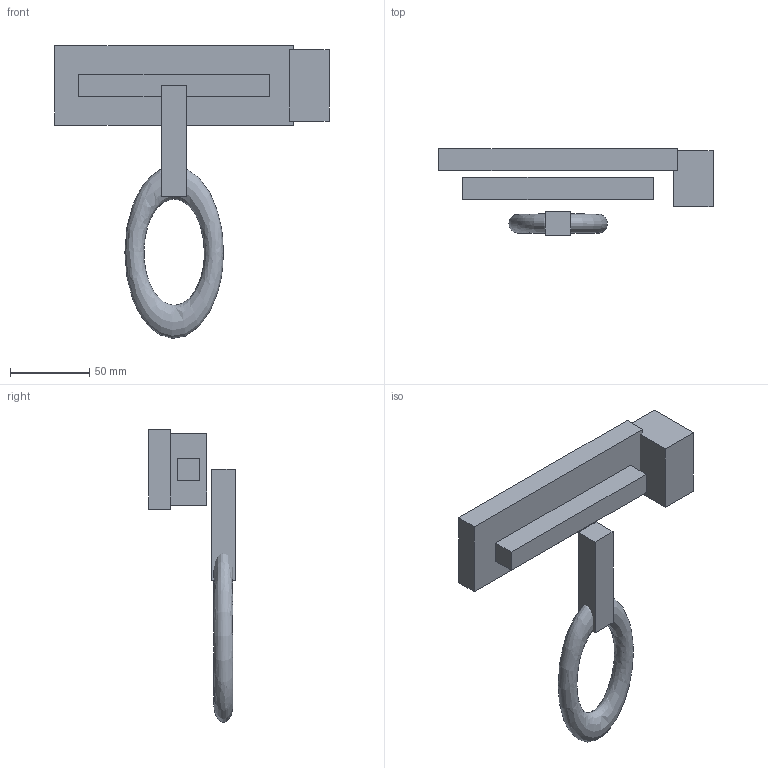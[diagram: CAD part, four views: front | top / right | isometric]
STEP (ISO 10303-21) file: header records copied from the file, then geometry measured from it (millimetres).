
FILE_DESCRIPTION(('FreeCAD Model'),'2;1');
FILE_NAME('Open CASCADE Shape Model','2026-10-20T16:17:42',('FreeCAD'),( 'FreeCAD'),'Open CASCADE STEP processor 7.8','FreeCAD','Unknown');
FILE_SCHEMA(('AUTOMOTIVE_DESIGN { 1 0 10303 214 1 1 1 1 }'));
Length unit declared in the file: millimetre
Products named in the file (1): Open CASCADE STEP translator 7.8 1
Bounding box: 172.5 x 54.5 x 184.21 mm (x, y, z)
Volume: 216070 mm3; surface area: 49114.2 mm2
Topology: 5 solids, 5 shells, 25 faces, 50 edges, 33 vertices
Faces by surface type: plane 24, bspline 1
Entity records: 672 total; most frequent: CARTESIAN_POINT 155, DIRECTION 98, ORIENTED_EDGE 96, EDGE_CURVE 48, LINE 48, VECTOR 48, VERTEX_POINT 33, AXIS2_PLACEMENT_3D 25
